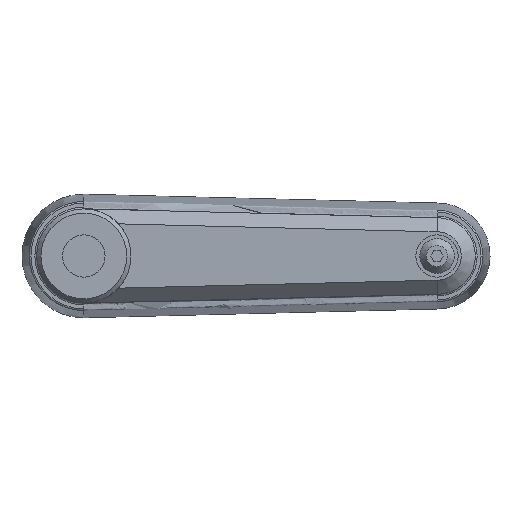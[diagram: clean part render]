
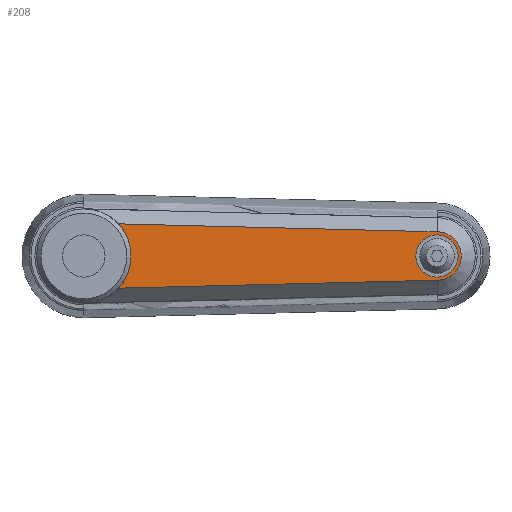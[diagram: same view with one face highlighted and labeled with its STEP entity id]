
A CAD part, left-side view. The second image highlights one B-rep face of the part: STEP entity #208.
In plain terms, the highlighted planar face has unit normal (-1, 0, 0).
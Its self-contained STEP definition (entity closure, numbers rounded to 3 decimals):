
#208 = ADVANCED_FACE( '', ( #349, #350 ), #351, .F. );
#349 = FACE_BOUND( '', #616, .T. );
#350 = FACE_OUTER_BOUND( '', #617, .T. );
#351 = PLANE( '', #618 );
#616 = EDGE_LOOP( '', ( #1076 ) );
#617 = EDGE_LOOP( '', ( #1077, #1078, #1079, #1080 ) );
#618 = AXIS2_PLACEMENT_3D( '', #1081, #1082, #1083 );
#1076 = ORIENTED_EDGE( '', *, *, #1564, .T. );
#1077 = ORIENTED_EDGE( '', *, *, #1565, .F. );
#1078 = ORIENTED_EDGE( '', *, *, #1547, .F. );
#1079 = ORIENTED_EDGE( '', *, *, #1563, .T. );
#1080 = ORIENTED_EDGE( '', *, *, #1527, .T. );
#1081 = CARTESIAN_POINT( '', ( -5.6, -100., -6.854 ) );
#1082 = DIRECTION( '', ( 1., 0., 0. ) );
#1083 = DIRECTION( '', ( 0., 0., -1. ) );
#1527 = EDGE_CURVE( '', #1820, #1818, #1821, .T. );
#1547 = EDGE_CURVE( '', #1855, #1856, #1857, .T. );
#1563 = EDGE_CURVE( '', #1855, #1820, #1876, .T. );
#1564 = EDGE_CURVE( '', #1877, #1877, #1878, .T. );
#1565 = EDGE_CURVE( '', #1856, #1818, #1879, .F. );
#1818 = VERTEX_POINT( '', #2369 );
#1820 = VERTEX_POINT( '', #2371 );
#1821 = LINE( '', #2372, #2373 );
#1855 = VERTEX_POINT( '', #2472 );
#1856 = VERTEX_POINT( '', #2473 );
#1857 = LINE( '', #2474, #2475 );
#1876 = CIRCLE( '', #2498, 6.854 );
#1877 = VERTEX_POINT( '', #2499 );
#1878 = CIRCLE( '', #2500, 5.992 );
#1879 = CIRCLE( '', #2501, 13.35 );
#2369 = CARTESIAN_POINT( '', ( -5.6, -9.759, 9.109 ) );
#2371 = CARTESIAN_POINT( '', ( -5.6, -100., 6.854 ) );
#2372 = CARTESIAN_POINT( '', ( -5.6, -100., 6.854 ) );
#2373 = VECTOR( '', #2768, 1000. );
#2472 = CARTESIAN_POINT( '', ( -5.6, -100., -6.854 ) );
#2473 = CARTESIAN_POINT( '', ( -5.6, -9.759, -9.109 ) );
#2474 = CARTESIAN_POINT( '', ( -5.6, -100., -6.854 ) );
#2475 = VECTOR( '', #2779, 1000. );
#2498 = AXIS2_PLACEMENT_3D( '', #2817, #2818, #2819 );
#2499 = CARTESIAN_POINT( '', ( -5.6, -100., -5.992 ) );
#2500 = AXIS2_PLACEMENT_3D( '', #2820, #2821, #2822 );
#2501 = AXIS2_PLACEMENT_3D( '', #2823, #2824, #2825 );
#2768 = DIRECTION( '', ( 0., 1., 0.025 ) );
#2779 = DIRECTION( '', ( 0., 1., -0.025 ) );
#2817 = CARTESIAN_POINT( '', ( -5.6, -100., 0. ) );
#2818 = DIRECTION( '', ( -1., 0., 0. ) );
#2819 = DIRECTION( '', ( 0., 0., 1. ) );
#2820 = CARTESIAN_POINT( '', ( -5.6, -100., 0. ) );
#2821 = DIRECTION( '', ( 1., 0., 0. ) );
#2822 = DIRECTION( '', ( 0., 0., -1. ) );
#2823 = CARTESIAN_POINT( '', ( -5.6, 0., 0. ) );
#2824 = DIRECTION( '', ( 1., 0., 0. ) );
#2825 = DIRECTION( '', ( 0., 0., -1. ) );
